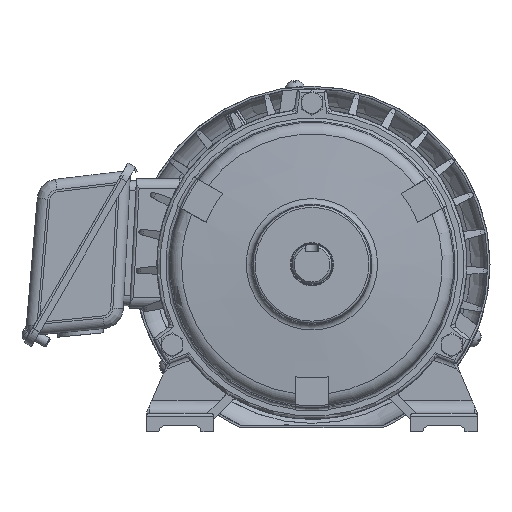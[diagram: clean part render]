
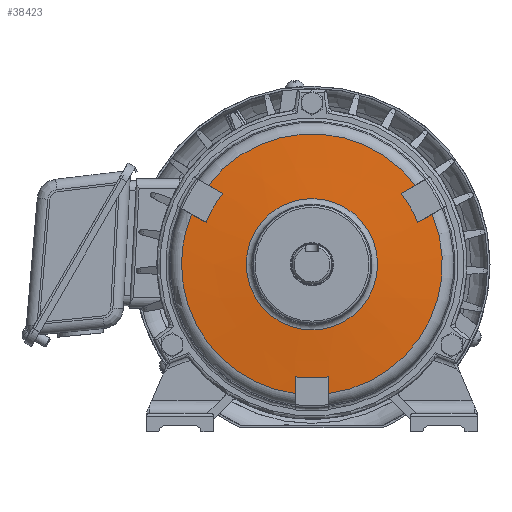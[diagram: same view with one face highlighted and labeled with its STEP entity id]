
A CAD part, front view. The second image highlights one B-rep face of the part: STEP entity #38423.
In plain terms, the highlighted conical face has half-angle 85.486 degrees and reference radius 67 mm.
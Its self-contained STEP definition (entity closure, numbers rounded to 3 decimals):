
#7743=CIRCLE('',#40875,31.338);
#7744=CIRCLE('',#40876,62.246);
#7745=CIRCLE('',#40877,54.333);
#7746=CIRCLE('',#40878,62.246);
#7747=CIRCLE('',#40879,54.333);
#7748=CIRCLE('',#40880,62.246);
#7749=CIRCLE('',#40881,54.333);
#10796=ORIENTED_EDGE('',*,*,#20530,.T.);
#10797=ORIENTED_EDGE('',*,*,#20531,.F.);
#10798=ORIENTED_EDGE('',*,*,#20532,.T.);
#10799=ORIENTED_EDGE('',*,*,#20533,.F.);
#10800=ORIENTED_EDGE('',*,*,#20534,.F.);
#10801=ORIENTED_EDGE('',*,*,#20535,.F.);
#10802=ORIENTED_EDGE('',*,*,#20536,.T.);
#10803=ORIENTED_EDGE('',*,*,#20537,.F.);
#10804=ORIENTED_EDGE('',*,*,#20538,.F.);
#10805=ORIENTED_EDGE('',*,*,#20539,.F.);
#10806=ORIENTED_EDGE('',*,*,#20540,.T.);
#10807=ORIENTED_EDGE('',*,*,#20541,.F.);
#10808=ORIENTED_EDGE('',*,*,#20542,.F.);
#20530=EDGE_CURVE('',#25545,#25545,#7743,.T.);
#20531=EDGE_CURVE('',#25546,#25547,#28698,.T.);
#20532=EDGE_CURVE('',#25546,#25548,#7744,.T.);
#20533=EDGE_CURVE('',#25549,#25548,#28699,.T.);
#20534=EDGE_CURVE('',#25550,#25549,#7745,.T.);
#20535=EDGE_CURVE('',#25551,#25550,#28700,.T.);
#20536=EDGE_CURVE('',#25551,#25552,#7746,.T.);
#20537=EDGE_CURVE('',#25553,#25552,#28701,.T.);
#20538=EDGE_CURVE('',#25554,#25553,#7747,.T.);
#20539=EDGE_CURVE('',#25555,#25554,#28702,.T.);
#20540=EDGE_CURVE('',#25555,#25556,#7748,.T.);
#20541=EDGE_CURVE('',#25557,#25556,#28703,.T.);
#20542=EDGE_CURVE('',#25547,#25557,#7749,.T.);
#25545=VERTEX_POINT('',#61298);
#25546=VERTEX_POINT('',#61303);
#25547=VERTEX_POINT('',#61304);
#25548=VERTEX_POINT('',#61306);
#25549=VERTEX_POINT('',#61311);
#25550=VERTEX_POINT('',#61313);
#25551=VERTEX_POINT('',#61318);
#25552=VERTEX_POINT('',#61320);
#25553=VERTEX_POINT('',#61325);
#25554=VERTEX_POINT('',#61327);
#25555=VERTEX_POINT('',#61332);
#25556=VERTEX_POINT('',#61334);
#25557=VERTEX_POINT('',#61339);
#28698=B_SPLINE_CURVE_WITH_KNOTS('',3,(#61299,#61300,#61301,#61302),
 .UNSPECIFIED.,.F.,.F.,(4,4),(0.,1.),.PIECEWISE_BEZIER_KNOTS.);
#28699=B_SPLINE_CURVE_WITH_KNOTS('',3,(#61307,#61308,#61309,#61310),
 .UNSPECIFIED.,.F.,.F.,(4,4),(0.,1.),.PIECEWISE_BEZIER_KNOTS.);
#28700=B_SPLINE_CURVE_WITH_KNOTS('',3,(#61314,#61315,#61316,#61317),
 .UNSPECIFIED.,.F.,.F.,(4,4),(0.,1.),.PIECEWISE_BEZIER_KNOTS.);
#28701=B_SPLINE_CURVE_WITH_KNOTS('',3,(#61321,#61322,#61323,#61324),
 .UNSPECIFIED.,.F.,.F.,(4,4),(0.,1.),.PIECEWISE_BEZIER_KNOTS.);
#28702=B_SPLINE_CURVE_WITH_KNOTS('',3,(#61328,#61329,#61330,#61331),
 .UNSPECIFIED.,.F.,.F.,(4,4),(0.,1.),.PIECEWISE_BEZIER_KNOTS.);
#28703=B_SPLINE_CURVE_WITH_KNOTS('',3,(#61335,#61336,#61337,#61338),
 .UNSPECIFIED.,.F.,.F.,(4,4),(0.,1.),.PIECEWISE_BEZIER_KNOTS.);
#29601=EDGE_LOOP('',(#10796));
#29602=EDGE_LOOP('',(#10797,#10798,#10799,#10800,#10801,#10802,#10803,#10804,
#10805,#10806,#10807,#10808));
#32131=FACE_BOUND('',#29601,.T.);
#32132=FACE_BOUND('',#29602,.T.);
#34331=CONICAL_SURFACE('',#40874,67.,1.492);
#38423=ADVANCED_FACE('',(#32131,#32132),#34331,.T.);
#40874=AXIS2_PLACEMENT_3D('',#61296,#45619,#45620);
#40875=AXIS2_PLACEMENT_3D('',#61297,#45621,#45622);
#40876=AXIS2_PLACEMENT_3D('',#61305,#45623,#45624);
#40877=AXIS2_PLACEMENT_3D('',#61312,#45625,#45626);
#40878=AXIS2_PLACEMENT_3D('',#61319,#45627,#45628);
#40879=AXIS2_PLACEMENT_3D('',#61326,#45629,#45630);
#40880=AXIS2_PLACEMENT_3D('',#61333,#45631,#45632);
#40881=AXIS2_PLACEMENT_3D('',#61340,#45633,#45634);
#45619=DIRECTION('',(0.,1.,0.));
#45620=DIRECTION('',(-1.,0.,0.));
#45621=DIRECTION('',(0.,1.,0.));
#45622=DIRECTION('',(-1.,0.,0.));
#45623=DIRECTION('',(0.,-1.,0.));
#45624=DIRECTION('',(1.,0.,0.));
#45625=DIRECTION('',(0.,1.,0.));
#45626=DIRECTION('',(-1.,0.,0.));
#45627=DIRECTION('',(0.,-1.,0.));
#45628=DIRECTION('',(1.,0.,0.));
#45629=DIRECTION('',(0.,1.,0.));
#45630=DIRECTION('',(-1.,0.,0.));
#45631=DIRECTION('',(0.,-1.,0.));
#45632=DIRECTION('',(1.,0.,0.));
#45633=DIRECTION('',(0.,1.,0.));
#45634=DIRECTION('',(-1.,0.,0.));
#61296=CARTESIAN_POINT('',(0.,9.,0.));
#61297=CARTESIAN_POINT('',(0.,6.185,0.));
#61298=CARTESIAN_POINT('',(-31.338,6.185,0.));
#61299=CARTESIAN_POINT('',(8.,8.625,-61.73));
#61300=CARTESIAN_POINT('',(8.,8.416,-59.067));
#61301=CARTESIAN_POINT('',(8.,8.208,-56.404));
#61302=CARTESIAN_POINT('',(8.,8.,-53.741));
#61303=CARTESIAN_POINT('',(8.,8.625,-61.73));
#61304=CARTESIAN_POINT('',(8.,8.,-53.741));
#61305=CARTESIAN_POINT('',(0.,8.625,0.));
#61306=CARTESIAN_POINT('',(57.46,8.625,23.937));
#61307=CARTESIAN_POINT('',(50.541,8.,19.942));
#61308=CARTESIAN_POINT('',(52.847,8.208,21.274));
#61309=CARTESIAN_POINT('',(55.153,8.416,22.605));
#61310=CARTESIAN_POINT('',(57.46,8.625,23.937));
#61311=CARTESIAN_POINT('',(50.541,8.,19.942));
#61312=CARTESIAN_POINT('',(0.,8.,0.));
#61313=CARTESIAN_POINT('',(42.541,8.,33.799));
#61314=CARTESIAN_POINT('',(49.46,8.625,37.793));
#61315=CARTESIAN_POINT('',(47.153,8.416,36.462));
#61316=CARTESIAN_POINT('',(44.847,8.208,35.13));
#61317=CARTESIAN_POINT('',(42.541,8.,33.799));
#61318=CARTESIAN_POINT('',(49.46,8.625,37.793));
#61319=CARTESIAN_POINT('',(0.,8.625,0.));
#61320=CARTESIAN_POINT('',(-49.46,8.625,37.793));
#61321=CARTESIAN_POINT('',(-42.541,8.,33.799));
#61322=CARTESIAN_POINT('',(-44.847,8.208,35.13));
#61323=CARTESIAN_POINT('',(-47.153,8.416,36.462));
#61324=CARTESIAN_POINT('',(-49.46,8.625,37.793));
#61325=CARTESIAN_POINT('',(-42.541,8.,33.799));
#61326=CARTESIAN_POINT('',(0.,8.,0.));
#61327=CARTESIAN_POINT('',(-50.541,8.,19.942));
#61328=CARTESIAN_POINT('',(-57.46,8.625,23.937));
#61329=CARTESIAN_POINT('',(-55.153,8.416,22.605));
#61330=CARTESIAN_POINT('',(-52.847,8.208,21.274));
#61331=CARTESIAN_POINT('',(-50.541,8.,19.942));
#61332=CARTESIAN_POINT('',(-57.46,8.625,23.937));
#61333=CARTESIAN_POINT('',(0.,8.625,0.));
#61334=CARTESIAN_POINT('',(-8.,8.625,-61.73));
#61335=CARTESIAN_POINT('',(-8.,8.,-53.741));
#61336=CARTESIAN_POINT('',(-8.,8.208,-56.404));
#61337=CARTESIAN_POINT('',(-8.,8.416,-59.067));
#61338=CARTESIAN_POINT('',(-8.,8.625,-61.73));
#61339=CARTESIAN_POINT('',(-8.,8.,-53.741));
#61340=CARTESIAN_POINT('',(0.,8.,0.));
